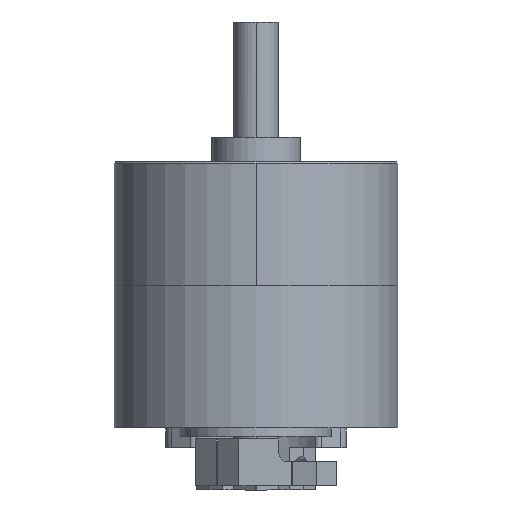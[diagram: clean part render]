
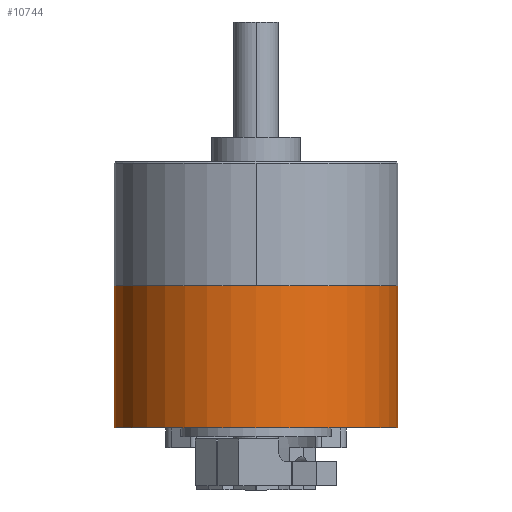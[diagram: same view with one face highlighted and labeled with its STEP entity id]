
A CAD part, front view. The second image highlights one B-rep face of the part: STEP entity #10744.
In plain terms, the highlighted cylindrical face has radius 32 mm (diameter 64 mm), a partial arc.
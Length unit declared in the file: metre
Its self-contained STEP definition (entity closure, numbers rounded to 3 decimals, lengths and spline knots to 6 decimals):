
#157 = CARTESIAN_POINT ( 'NONE',  ( 0., 0., -0.032 ) ) ;
#192 = DIRECTION ( 'NONE',  ( 0., 0., 1. ) ) ;
#214 = DIRECTION ( 'NONE',  ( 1., 0., 0. ) ) ;
#443 = EDGE_LOOP ( 'NONE', ( #12937, #4220, #2117, #8214 ) ) ;
#504 = CARTESIAN_POINT ( 'NONE',  ( -0.032, 0., 0. ) ) ;
#959 = CIRCLE ( 'NONE', #8798, 0.032 ) ;
#1166 = AXIS2_PLACEMENT_3D ( 'NONE', #4840, #13263, #6126 ) ;
#1594 = CARTESIAN_POINT ( 'NONE',  ( 0.032, 0., 0. ) ) ;
#2117 = ORIENTED_EDGE ( 'NONE', *, *, #15160, .T. ) ;
#3050 = CARTESIAN_POINT ( 'NONE',  ( -0.032, 0., -0.032 ) ) ;
#3408 = VERTEX_POINT ( 'NONE', #1594 ) ;
#3797 = VERTEX_POINT ( 'NONE', #4736 ) ;
#4220 = ORIENTED_EDGE ( 'NONE', *, *, #5829, .F. ) ;
#4241 = CIRCLE ( 'NONE', #1166, 0.032 ) ;
#4627 = AXIS2_PLACEMENT_3D ( 'NONE', #157, #192, #214 ) ;
#4736 = CARTESIAN_POINT ( 'NONE',  ( -0.032, 0., -0.032 ) ) ;
#4840 = CARTESIAN_POINT ( 'NONE',  ( 0., 0., 0. ) ) ;
#5689 = VERTEX_POINT ( 'NONE', #13941 ) ;
#5829 = EDGE_CURVE ( 'NONE', #5689, #3797, #959, .T. ) ;
#6039 = CYLINDRICAL_SURFACE ( 'NONE', #4627, 0.032 ) ;
#6044 = VERTEX_POINT ( 'NONE', #504 ) ;
#6126 = DIRECTION ( 'NONE',  ( 1., 0., 0. ) ) ;
#6225 = FACE_OUTER_BOUND ( 'NONE', #443, .T. ) ;
#6355 = VECTOR ( 'NONE', #12979, 1. ) ;
#8019 = DIRECTION ( 'NONE',  ( 0., 0., 1. ) ) ;
#8214 = ORIENTED_EDGE ( 'NONE', *, *, #13975, .F. ) ;
#8798 = AXIS2_PLACEMENT_3D ( 'NONE', #15179, #15151, #15224 ) ;
#10538 = VECTOR ( 'NONE', #8019, 1. ) ;
#10744 = ADVANCED_FACE ( 'NONE', ( #6225 ), #6039, .T. ) ;
#10913 = LINE ( 'NONE', #3050, #10538 ) ;
#12743 = LINE ( 'NONE', #14962, #6355 ) ;
#12937 = ORIENTED_EDGE ( 'NONE', *, *, #15107, .F. ) ;
#12979 = DIRECTION ( 'NONE',  ( 0., 0., 1. ) ) ;
#13263 = DIRECTION ( 'NONE',  ( 0., 0., 1. ) ) ;
#13941 = CARTESIAN_POINT ( 'NONE',  ( 0.032, 0., -0.032 ) ) ;
#13975 = EDGE_CURVE ( 'NONE', #6044, #3408, #4241, .T. ) ;
#14962 = CARTESIAN_POINT ( 'NONE',  ( 0.032, 0., -0.032 ) ) ;
#15107 = EDGE_CURVE ( 'NONE', #3797, #6044, #10913, .T. ) ;
#15151 = DIRECTION ( 'NONE',  ( 0., 0., -1. ) ) ;
#15160 = EDGE_CURVE ( 'NONE', #5689, #3408, #12743, .T. ) ;
#15179 = CARTESIAN_POINT ( 'NONE',  ( 0., 0., -0.032 ) ) ;
#15224 = DIRECTION ( 'NONE',  ( 1., 0., 0. ) ) ;
